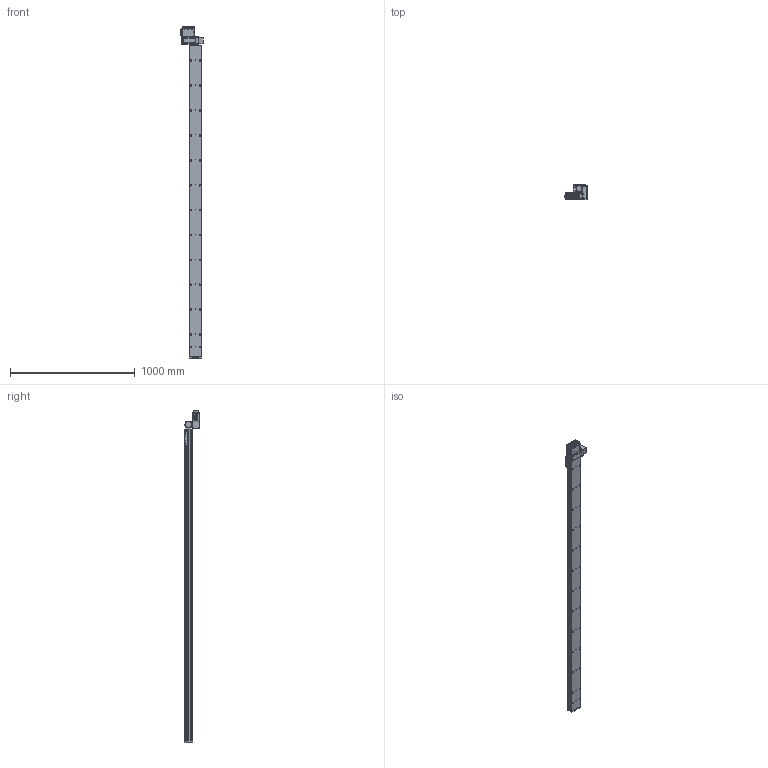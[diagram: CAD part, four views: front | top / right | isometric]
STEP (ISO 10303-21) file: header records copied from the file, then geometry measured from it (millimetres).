
FILE_DESCRIPTION (( 'STEP AP203' ), '1' );
FILE_NAME ('S10 TBH LH S2500.STEP', '2012-06-19T07:27:32', ( 'Conseil Régional Haute-Normandie' ), ( 'Conseil Régional Haute-Normandie' ), 'SwSTEP 2.0', 'SolidWorks 2010', '' );
FILE_SCHEMA (( 'CONFIG_CONTROL_DESIGN' ));
Length unit declared in the file: millimetre
Products named in the file (30): plaque de bout s10_Default; palette tbn; Assem1_7; vis M5 L5_Default; T_X2_00F4_X0_le contre le moteur_5; Couvercle_3; T_X2_00F4_X0_le fond_3; Colonnette ronde_3; T_X2_00F4_X0_le lat_X2_00E9_X0_rale_5; T_X2_00F4_X0_le Arri_X2_00E8_X0_re_5; S10 TBH LH S2500; cache t皻e axe_Default; cache t皻e_Default; Cvis M5 L30_Default; embout; Plaque racord_Default; renvoi LH_Default; vis M5 L12_Default; Vis M5 L16-2_Default_1; BU41 Carte Alimentation P05_3; Colonnette_3; BU45 Carte d''axe A11_5; Moteur 60BLDC90A_3; Connecteur rond D10 3cts_5; Connecteur rond D12 4cts_5; Sub D 9cts 90_X2_00B_X0__3; Radiateur profil_X2_00E9_X0_ 100x25_3; Vis TF 3 torkx_1_1; axe2500_Default; axe 2500
Assembly tree (63 placements, depth 3):
  S10 TBH LH S2500
    Vis M5 L16-2_Default_1  x4
    vis M5 L12_Default  x4
    Cvis M5 L30_Default  x2
    Plaque racord_Default
    embout
    plaque de bout s10_Default
    axe2500_Default
      axe 2500
    cache t皻e axe_Default
    vis M5 L5_Default  x4
    cache t皻e_Default  x2
    Assem1_7
      Moteur 60BLDC90A_3
      Couvercle_3
      Vis TF 3 torkx_1_1  x21
      T_X2_00F4_X0_le contre le moteur_5
      BU41 Carte Alimentation P05_3
      BU45 Carte d''axe A11_5
      T_X2_00F4_X0_le fond_3
      Colonnette_3  x2
      Connecteur rond D10 3cts_5  x2
      T_X2_00F4_X0_le lat_X2_00E9_X0_rale_5  x2
      Connecteur rond D12 4cts_5
      Sub D 9cts 90_X2_00B_X0__3
      T_X2_00F4_X0_le Arri_X2_00E8_X0_re_5
      Radiateur profil_X2_00E9_X0_ 100x25_3
      Colonnette ronde_3
    palette tbn
    renvoi LH_Default
Bounding box: 189.8 x 124.75 x 2666.5 mm (x, y, z)
Volume: 13785652.8 mm3; surface area: 1480697.5 mm2
Topology: 61 solids, 61 shells, 2386 faces, 5904 edges, 3807 vertices
Faces by surface type: plane 1117, cylinder 1044, cone 182, bspline 40, torus 3
Entity records: 50360 total; most frequent: CARTESIAN_POINT 9029, DIRECTION 8189, ORIENTED_EDGE 7388, EDGE_CURVE 3694, AXIS2_PLACEMENT_3D 3066, VERTEX_POINT 2411, LINE 2057, VECTOR 2057
